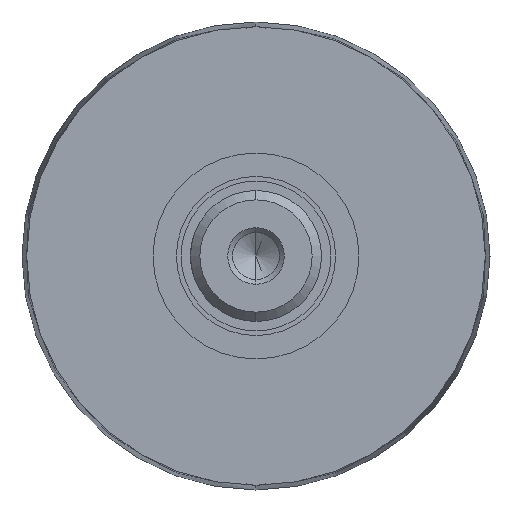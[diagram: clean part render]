
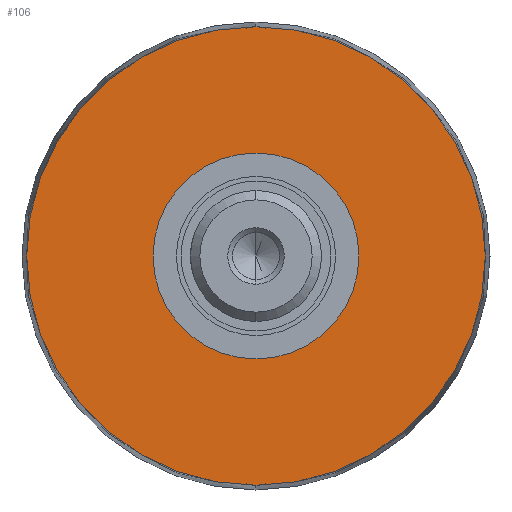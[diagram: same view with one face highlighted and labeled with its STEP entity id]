
A CAD part, left-side view. The second image highlights one B-rep face of the part: STEP entity #106.
In plain terms, the highlighted planar face has unit normal (-1, 0, 0).
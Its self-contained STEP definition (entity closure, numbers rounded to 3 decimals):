
#97 = ORIENTED_EDGE ( 'NONE', *, *, #104, .F. ) ;
#101 = ORIENTED_EDGE ( 'NONE', *, *, #282, .T. ) ;
#104 = EDGE_CURVE ( 'NONE', #295, #293, #521, .T. ) ;
#106 = ADVANCED_FACE ( 'NONE', ( #484, #477 ), #531, .F. ) ;
#111 = EDGE_LOOP ( 'NONE', ( #127, #101 ) ) ;
#116 = EDGE_CURVE ( 'NONE', #277, #276, #515, .T. ) ;
#127 = ORIENTED_EDGE ( 'NONE', *, *, #116, .T. ) ;
#137 = EDGE_LOOP ( 'NONE', ( #147, #97 ) ) ;
#147 = ORIENTED_EDGE ( 'NONE', *, *, #290, .F. ) ;
#276 = VERTEX_POINT ( 'NONE', #787 ) ;
#277 = VERTEX_POINT ( 'NONE', #791 ) ;
#282 = EDGE_CURVE ( 'NONE', #276, #277, #830, .T. ) ;
#290 = EDGE_CURVE ( 'NONE', #293, #295, #802, .T. ) ;
#293 = VERTEX_POINT ( 'NONE', #852 ) ;
#295 = VERTEX_POINT ( 'NONE', #808 ) ;
#477 = FACE_OUTER_BOUND ( 'NONE', #111, .T. ) ;
#484 = FACE_BOUND ( 'NONE', #137, .T. ) ;
#500 = DIRECTION ( 'NONE',  ( 0., 0., 1. ) ) ;
#501 = DIRECTION ( 'NONE',  ( -1., 0., 0. ) ) ;
#502 = CARTESIAN_POINT ( 'NONE',  ( 99.5, 0., 0. ) ) ;
#503 = AXIS2_PLACEMENT_3D ( 'NONE', #502, #501, #500 ) ;
#510 = DIRECTION ( 'NONE',  ( 0., 0., -1. ) ) ;
#511 = DIRECTION ( 'NONE',  ( 1., 0., 0. ) ) ;
#512 = CARTESIAN_POINT ( 'NONE',  ( 99.5, 24.5, 0. ) ) ;
#515 = CIRCLE ( 'NONE', #503, 24.5 ) ;
#516 = DIRECTION ( 'NONE',  ( 0., 0., 1. ) ) ;
#517 = DIRECTION ( 'NONE',  ( -1., 0., 0. ) ) ;
#518 = CARTESIAN_POINT ( 'NONE',  ( 99.5, 0., 0. ) ) ;
#519 = AXIS2_PLACEMENT_3D ( 'NONE', #518, #517, #516 ) ;
#521 = CIRCLE ( 'NONE', #519, 11. ) ;
#525 = AXIS2_PLACEMENT_3D ( 'NONE', #512, #511, #510 ) ;
#531 = PLANE ( 'NONE',  #525 ) ;
#787 = CARTESIAN_POINT ( 'NONE',  ( 99.5, 0., 24.5 ) ) ;
#791 = CARTESIAN_POINT ( 'NONE',  ( 99.5, 0., -24.5 ) ) ;
#802 = CIRCLE ( 'NONE', #814, 11. ) ;
#808 = CARTESIAN_POINT ( 'NONE',  ( 99.5, 0., -11. ) ) ;
#814 = AXIS2_PLACEMENT_3D ( 'NONE', #827, #855, #854 ) ;
#819 = DIRECTION ( 'NONE',  ( 0., 0., 1. ) ) ;
#820 = DIRECTION ( 'NONE',  ( -1., 0., 0. ) ) ;
#821 = CARTESIAN_POINT ( 'NONE',  ( 99.5, 0., 0. ) ) ;
#822 = AXIS2_PLACEMENT_3D ( 'NONE', #821, #820, #819 ) ;
#827 = CARTESIAN_POINT ( 'NONE',  ( 99.5, 0., 0. ) ) ;
#830 = CIRCLE ( 'NONE', #822, 24.5 ) ;
#852 = CARTESIAN_POINT ( 'NONE',  ( 99.5, 0., 11. ) ) ;
#854 = DIRECTION ( 'NONE',  ( 0., 0., 1. ) ) ;
#855 = DIRECTION ( 'NONE',  ( -1., 0., 0. ) ) ;
